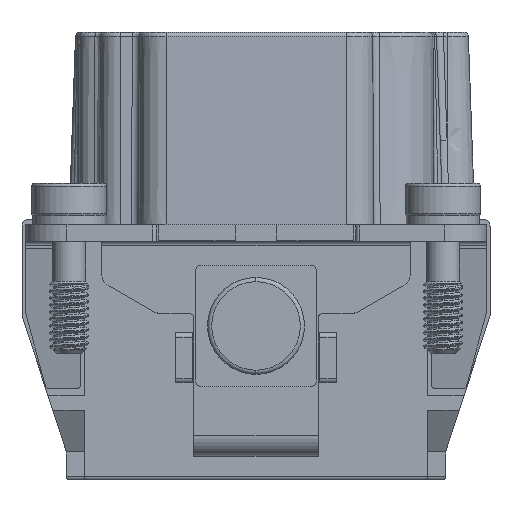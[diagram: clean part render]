
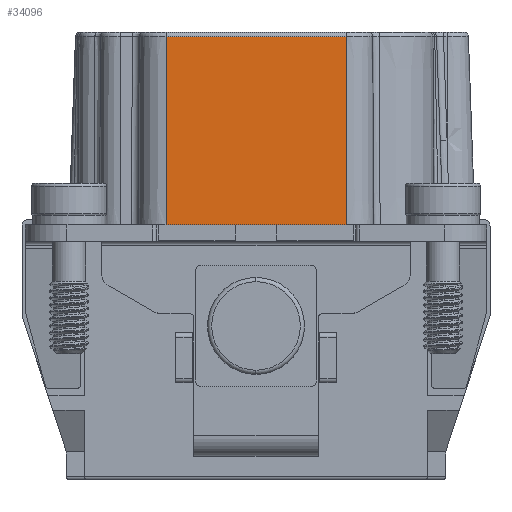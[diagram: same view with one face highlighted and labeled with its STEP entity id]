
A CAD part, left-side view. The second image highlights one B-rep face of the part: STEP entity #34096.
In plain terms, the highlighted planar face has unit normal (-1, 0, 0.005).
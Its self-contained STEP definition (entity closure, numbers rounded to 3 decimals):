
#3040=DIRECTION('',(0.,-1.,0.));
#3041=VECTOR('',#3040,13.);
#3042=CARTESIAN_POINT('',(-25.3,6.5,-13.9));
#3043=LINE('',#3042,#3041);
#3346=DIRECTION('',(0.005,0.,1.));
#3347=VECTOR('',#3346,13.602);
#3348=CARTESIAN_POINT('',(-25.3,6.5,-13.9));
#3349=LINE('',#3348,#3347);
#3350=DIRECTION('',(0.,1.,0.));
#3351=VECTOR('',#3350,13.);
#3352=CARTESIAN_POINT('',(-25.229,-6.5,-0.298));
#3353=LINE('',#3352,#3351);
#3354=DIRECTION('',(-0.005,0.,-1.));
#3355=VECTOR('',#3354,13.602);
#3356=CARTESIAN_POINT('',(-25.229,-6.5,-0.298));
#3357=LINE('',#3356,#3355);
#27751=CARTESIAN_POINT('',(-25.229,-6.5,-0.298));
#27752=VERTEX_POINT('',#27751);
#27755=CARTESIAN_POINT('',(-25.229,6.5,-0.298));
#27756=VERTEX_POINT('',#27755);
#27794=CARTESIAN_POINT('',(-25.3,6.5,-13.9));
#27796=VERTEX_POINT('',#27794);
#27882=CARTESIAN_POINT('',(-25.3,-6.5,-13.9));
#27884=VERTEX_POINT('',#27882);
#34083=CARTESIAN_POINT('',(-25.3,17.969,-13.9));
#34084=DIRECTION('',(-1.,0.,0.005));
#34085=DIRECTION('',(0.,1.,0.));
#34086=AXIS2_PLACEMENT_3D('',#34083,#34084,#34085);
#34087=PLANE('',#34086);
#34088=ORIENTED_EDGE('',*,*,#33676,.F.);
#34090=ORIENTED_EDGE('',*,*,#34089,.T.);
#34092=ORIENTED_EDGE('',*,*,#34091,.F.);
#34093=ORIENTED_EDGE('',*,*,#34073,.T.);
#34094=EDGE_LOOP('',(#34088,#34090,#34092,#34093));
#34095=FACE_OUTER_BOUND('',#34094,.F.);
#33676=EDGE_CURVE('',#27796,#27884,#3043,.T.);
#34073=EDGE_CURVE('',#27752,#27884,#3357,.T.);
#34089=EDGE_CURVE('',#27796,#27756,#3349,.T.);
#34091=EDGE_CURVE('',#27752,#27756,#3353,.T.);
#34096=ADVANCED_FACE('',(#34095),#34087,.T.);
